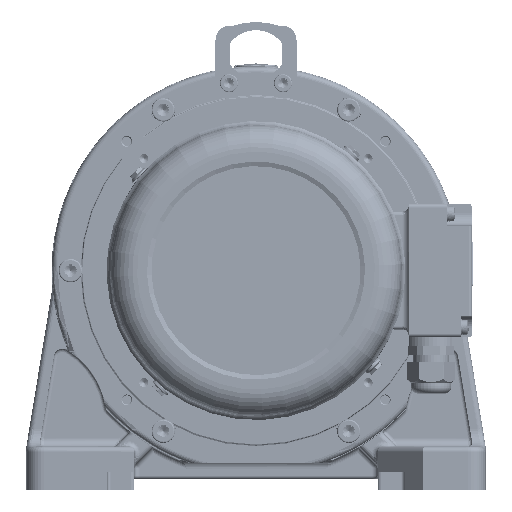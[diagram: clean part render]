
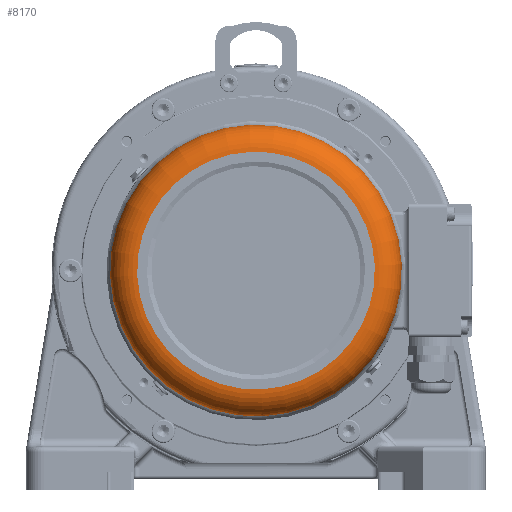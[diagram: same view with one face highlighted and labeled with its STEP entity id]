
A CAD part, left-side view. The second image highlights one B-rep face of the part: STEP entity #8170.
In plain terms, the highlighted toroidal (fillet/blend) face has major radius 66 mm and minor radius 15 mm.
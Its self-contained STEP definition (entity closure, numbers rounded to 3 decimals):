
#2539=TOROIDAL_SURFACE('',#87499,66.,15.);
#4653=FACE_BOUND('',#20005,.T.);
#4654=FACE_BOUND('',#20006,.T.);
#8170=ADVANCED_FACE('',(#4653,#4654),#2539,.T.);
#20005=EDGE_LOOP('',(#45701));
#20006=EDGE_LOOP('',(#45702));
#45701=ORIENTED_EDGE('',*,*,#70813,.F.);
#45702=ORIENTED_EDGE('',*,*,#70814,.T.);
#61177=VERTEX_POINT('',#134051);
#61178=VERTEX_POINT('',#134054);
#70813=EDGE_CURVE('',#61177,#61177,#80443,.T.);
#70814=EDGE_CURVE('',#61178,#61178,#80444,.T.);
#80443=CIRCLE('',#87496,81.);
#80444=CIRCLE('',#87498,66.);
#87496=AXIS2_PLACEMENT_3D('',#134050,#104970,#104971);
#87498=AXIS2_PLACEMENT_3D('',#134053,#104974,#104975);
#87499=AXIS2_PLACEMENT_3D('',#134055,#104976,#104977);
#104970=DIRECTION('',(1.,0.,0.));
#104971=DIRECTION('',(0.,0.609,-0.793));
#104974=DIRECTION('',(1.,0.,0.));
#104975=DIRECTION('',(0.,0.609,-0.793));
#104976=DIRECTION('',(1.,0.,0.));
#104977=DIRECTION('',(0.,0.609,-0.793));
#134050=CARTESIAN_POINT('',(-331.,0.,0.));
#134051=CARTESIAN_POINT('',(-331.,49.31,-64.262));
#134053=CARTESIAN_POINT('',(-346.,0.,0.));
#134054=CARTESIAN_POINT('',(-346.,40.178,-52.361));
#134055=CARTESIAN_POINT('',(-331.,0.,0.));
